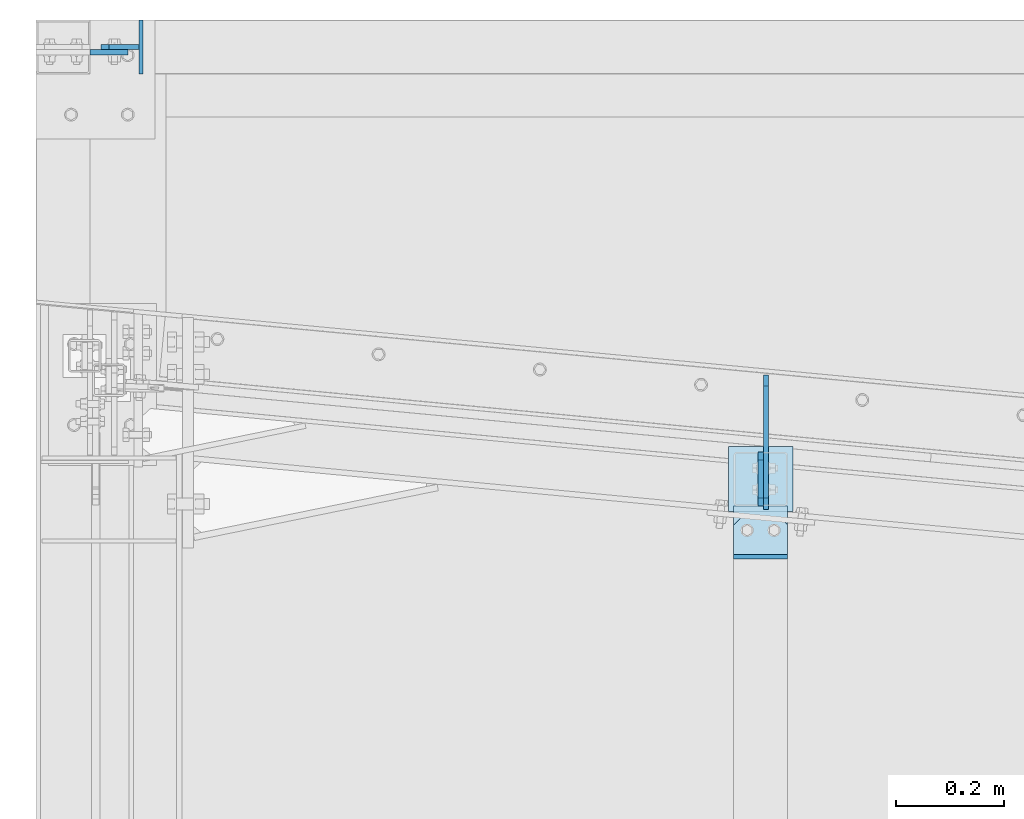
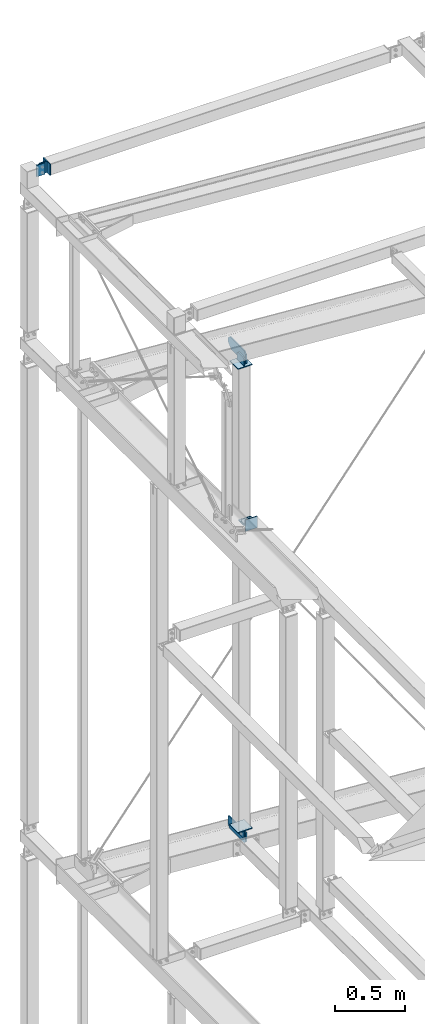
# One storey, part 148 of 271: 12 plates, 6 elements without a shape of their own.
"""IFC2X3 building model written with IfcOpenShell, lengths in millimetres."""

from ifc_helpers import new_model, si_unit, frame, origin_with_axes, place, context, subcontext, project, spatial, polyline, outline, extrude, material, type_object, element, aggregate, save


model = new_model("IFC2X3")

# Units and contexts
model_context = context("Model", 3, precision=1e-05, world=origin_with_axes())
body_context = subcontext(model_context, "Body", "Model", "MODEL_VIEW")
ifc_project = project(units=[si_unit("LENGTHUNIT", "METRE", prefix="MILLI"), si_unit("AREAUNIT", "SQUARE_METRE"), si_unit("VOLUMEUNIT", "CUBIC_METRE"), si_unit("MASSUNIT", "GRAM", prefix="KILO"), si_unit("TIMEUNIT", "SECOND"), si_unit("PLANEANGLEUNIT", "RADIAN"), si_unit("SOLIDANGLEUNIT", "STERADIAN"), si_unit("THERMODYNAMICTEMPERATUREUNIT", "DEGREE_CELSIUS"), si_unit("LUMINOUSINTENSITYUNIT", "LUMEN")], contexts=[model_context])

# Site, building, storey
site_placement = place(None, origin_with_axes())
site = spatial("IfcSite", under=ifc_project, at=site_placement, Name="Undefined", CompositionType="ELEMENT")
building_placement = place(site_placement, origin_with_axes())
building = spatial("IfcBuilding", under=site, at=building_placement, Name="Undefined", CompositionType="ELEMENT")
storey_placement = place(building_placement, origin_with_axes())
storey = spatial("IfcBuildingStorey", under=building, at=storey_placement, Name="Undefined", CompositionType="ELEMENT", Elevation=0.0)

# Assembly, plate
assembly_1_placement = place(storey_placement, origin_with_axes())
assembly_1 = element("IfcElementAssembly", 1, at=assembly_1_placement, inside=storey, AssemblyPlace="NOTDEFINED", PredefinedType="RIGID_FRAME")
ifc_material = material(Name="STEEL/S355JR")
plate_type_1 = type_object("IfcPlateType", Name="BL8*100", PredefinedType="NOTDEFINED")
plate_1_placement = place(assembly_1_placement, frame((1380.37568709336, 3965.0521198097, 17144.3499999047), z_axis=(0.0, 1.0, 0.0), x_axis=(-1.0, 0.0, 1.38777878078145e-17)))
plate_1 = element("IfcPlate", 2, at=plate_1_placement, type_object=plate_type_1, material=ifc_material, Name="BLACHA", ObjectType="BL8*100", context=body_context, shape_type="SweptSolid", body=[
    extrude(outline(polyline([(0.0, 0.0), (100.0, 0.0), (100.0, 100.0), (1.59161572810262e-12, 100.0), (0.0, 0.0)])), frame((0.0, 0.0, -4.0), z_axis=(0.0, 0.0, 1.0), x_axis=(1.0, 0.0, 0.0)), (0.0, 0.0, 1.0), 8.0),
])

assembly_2_placement = place(storey_placement, origin_with_axes())
assembly_2 = element("IfcElementAssembly", 3, at=assembly_2_placement, inside=storey, AssemblyPlace="NOTDEFINED", PredefinedType="RIGID_FRAME")
plate_2_placement = place(assembly_2_placement, frame((182.375687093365, 4859.32498425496, 20104.3499999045), z_axis=(-1.0, 0.0, 1.38777878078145e-17), x_axis=(0.0, 0.0, 1.0)))
plate_2 = element("IfcPlate", 4, at=plate_2_placement, type_object=plate_type_1, material=ifc_material, Name="BLACHA", ObjectType="BL8*100", context=body_context, shape_type="SweptSolid", body=[
    extrude(outline(polyline([(0.0, 0.0), (100.0, 0.0), (100.0, 100.0), (1.59161572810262e-12, 100.0), (0.0, 0.0)])), frame((0.0, 0.0, -4.0), z_axis=(0.0, 0.0, 1.0), x_axis=(1.0, 0.0, 0.0)), (0.0, 0.0, 1.0), 8.0),
])

# Plate
plate_type_2 = type_object("IfcPlateType", Name="BL10*70", PredefinedType="NOTDEFINED")
plate_3_placement = place(assembly_1_placement, frame((1380.37568709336, 4024.0521198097, 17194.3499999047), z_axis=(0.0, 0.0, 1.0), x_axis=(-0.707106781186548, 0.707106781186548, 0.0)))
plate_3 = element("IfcPlate", 5, at=plate_3_placement, type_object=plate_type_2, material=ifc_material, Name="BLACHA", ObjectType="BL10*70", context=body_context, shape_type="SweptSolid", body=[
    extrude(outline(polyline([(0.0, 0.0), (21.2132034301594, 1.09139364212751e-11), (70.7106781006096, 49.4974746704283), (70.7106781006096, 70.7106781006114), (31.8198051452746, 109.601554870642), (-38.890872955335, 38.8908729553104), (0.0, 0.0)])), frame((0.0, 0.0, -5.0), z_axis=(0.0, 0.0, 1.0), x_axis=(1.0, 0.0, 0.0)), (0.0, 0.0, 1.0), 10.0),
])

aggregate(assembly_1, [plate_1, plate_3])

# Assembly, plates
assembly_3_placement = place(storey_placement, origin_with_axes())
assembly_3 = element("IfcElementAssembly", 6, at=assembly_3_placement, inside=storey, AssemblyPlace="NOTDEFINED", PredefinedType="RIGID_FRAME")
plate_4_placement = place(assembly_3_placement, frame((1380.37568709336, 4059.0521198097, 17184.3499999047), z_axis=(0.0, 0.0, 1.0), x_axis=(-1.0, 0.0, 1.38777878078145e-17)))
plate_4 = element("IfcPlate", 7, at=plate_4_placement, type_object=plate_type_2, material=ifc_material, Name="BLACHA", ObjectType="BL10*70", context=body_context, shape_type="SweptSolid", body=[
    extrude(outline(polyline([(0.0, 0.0), (100.0, 0.0), (100.0, 70.0), (0.0, 70.0), (0.0, 0.0)])), frame((0.0, 0.0, -5.0), z_axis=(0.0, 0.0, 1.0), x_axis=(1.0, 0.0, 0.0)), (0.0, 0.0, 1.0), 10.0),
])
plate_5_placement = place(assembly_3_placement, frame((1330.37568709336, 4059.0521198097, 18575.749999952), z_axis=(-1.0, 0.0, 1.38777878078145e-17), x_axis=(0.0, 0.707106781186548, 0.707106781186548)))
plate_5 = element("IfcPlate", 8, at=plate_5_placement, type_object=plate_type_2, material=ifc_material, Name="BLACHA", ObjectType="BL10*70", context=body_context, shape_type="SweptSolid", body=[
    extrude(outline(polyline([(0.0, 0.0), (21.2132034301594, 1.09139364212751e-11), (70.7106781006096, 49.4974746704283), (70.7106781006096, 70.7106781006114), (31.8198051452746, 109.601554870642), (-38.890872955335, 38.8908729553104), (0.0, 0.0)])), frame((0.0, 0.0, -5.0), z_axis=(0.0, 0.0, 1.0), x_axis=(1.0, 0.0, 0.0)), (0.0, 0.0, 1.0), 10.0),
])
plate_6_placement = place(assembly_3_placement, frame((1330.37568709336, 4159.0521198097, 14392.949999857), z_axis=(-1.0, 0.0, 1.38777878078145e-17), x_axis=(0.0, -0.707106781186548, -0.707106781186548)))
plate_6 = element("IfcPlate", 9, at=plate_6_placement, type_object=plate_type_2, material=ifc_material, Name="BLACHA", ObjectType="BL10*70", context=body_context, shape_type="SweptSolid", body=[
    extrude(outline(polyline([(0.0, 0.0), (21.2132034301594, 1.09139364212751e-11), (70.7106781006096, 49.4974746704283), (70.7106781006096, 70.7106781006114), (31.8198051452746, 109.601554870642), (-38.890872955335, 38.8908729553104), (0.0, 0.0)])), frame((0.0, 0.0, -5.0), z_axis=(0.0, 0.0, 1.0), x_axis=(1.0, 0.0, 0.0)), (0.0, 0.0, 1.0), 10.0),
])

# Plate
plate_7_placement = place(assembly_2_placement, frame((123.375687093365, 4909.32498425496, 20104.3499999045), z_axis=(0.0, 1.0, 0.0), x_axis=(-0.707106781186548, 0.0, 0.707106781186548)))
plate_7 = element("IfcPlate", 10, at=plate_7_placement, type_object=plate_type_2, material=ifc_material, Name="BLACHA", ObjectType="BL10*70", context=body_context, shape_type="SweptSolid", body=[
    extrude(outline(polyline([(0.0, 0.0), (21.2132034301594, 1.09139364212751e-11), (70.7106781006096, 49.4974746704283), (70.7106781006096, 70.7106781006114), (31.8198051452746, 109.601554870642), (-38.890872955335, 38.8908729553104), (0.0, 0.0)])), frame((0.0, 0.0, -5.0), z_axis=(0.0, 0.0, 1.0), x_axis=(1.0, 0.0, 0.0)), (0.0, 0.0, 1.0), 10.0),
])

aggregate(assembly_2, [plate_2, plate_7])

# Assembly, plate
assembly_4_placement = place(storey_placement, origin_with_axes())
assembly_4 = element("IfcElementAssembly", 11, at=assembly_4_placement, inside=storey, AssemblyPlace="NOTDEFINED", PredefinedType="RIGID_FRAME")
plate_8_placement = place(assembly_4_placement, frame((88.3756870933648, 4899.32498425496, 20104.3499999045), z_axis=(0.0, 1.0, 0.0), x_axis=(0.0, 0.0, 1.0)))
plate_8 = element("IfcPlate", 12, at=plate_8_placement, type_object=plate_type_2, material=ifc_material, Name="BLACHA", ObjectType="BL10*70", context=body_context, shape_type="SweptSolid", body=[
    extrude(outline(polyline([(0.0, 0.0), (100.0, 0.0), (100.0, 70.0), (0.0, 70.0), (0.0, 0.0)])), frame((0.0, 0.0, -5.0), z_axis=(0.0, 0.0, 1.0), x_axis=(1.0, 0.0, 0.0)), (0.0, 0.0, 1.0), 10.0),
])
aggregate(assembly_4, [plate_8])

assembly_5_placement = place(storey_placement, origin_with_axes())
assembly_5 = element("IfcElementAssembly", 13, at=assembly_5_placement, inside=storey, AssemblyPlace="NOTDEFINED", PredefinedType="RIGID_FRAME")
plate_type_3 = type_object("IfcPlateType", Name="BL10*100", PredefinedType="NOTDEFINED")
plate_9_placement = place(assembly_5_placement, frame((1340.37568709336, 4301.95966050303, 18640.749999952), z_axis=(-1.0, 0.0, 1.38777878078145e-17), x_axis=(0.0, 0.0, -1.0)))
plate_9 = element("IfcPlate", 14, at=plate_9_placement, type_object=plate_type_3, material=ifc_material, Name="BLACHA", ObjectType="BL10*100", context=body_context, shape_type="SweptSolid", body=[
    extrude(outline(polyline([(0.0, 20.7716979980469), (20.7716979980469, 8.17124146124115e-14), (60.0, 4.44089209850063e-13), (100.0, 40.0000000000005), (100.0, 249.16485595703), (20.7716979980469, 249.16485595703), (0.0, 228.393157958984), (0.0, 20.7716979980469)])), frame((0.0, 0.0, -5.0), z_axis=(0.0, 0.0, 1.0), x_axis=(1.0, 0.0, 0.0)), (0.0, 0.0, 1.0), 10.0),
])
aggregate(assembly_5, [plate_9])

assembly_6_placement = place(storey_placement, origin_with_axes())
assembly_6 = element("IfcElementAssembly", 15, at=assembly_6_placement, inside=storey, AssemblyPlace="NOTDEFINED", PredefinedType="RIGID_FRAME")
plate_10_placement = place(assembly_6_placement, frame((1340.37568709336, 4052.79480118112, 14327.949999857), z_axis=(-1.0, 0.0, 1.38777878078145e-17), x_axis=(0.0, 0.0, 1.0)))
plate_10 = element("IfcPlate", 16, at=plate_10_placement, type_object=plate_type_3, material=ifc_material, Name="BLACHA", ObjectType="BL10*100", context=body_context, shape_type="SweptSolid", body=[
    extrude(outline(polyline([(0.0, 20.7716979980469), (20.7716979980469, 8.17124146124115e-14), (100.0, 0.0), (100.0, 249.16485595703), (20.7716979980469, 249.16485595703), (0.0, 228.393157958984), (0.0, 20.7716979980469)])), frame((0.0, 0.0, -5.0), z_axis=(0.0, 0.0, 1.0), x_axis=(1.0, 0.0, 0.0)), (0.0, 0.0, 1.0), 10.0),
])
aggregate(assembly_6, [plate_10])

# Plate
plate_type_4 = type_object("IfcPlateType", Name="BL8*120", PredefinedType="NOTDEFINED")
plate_11_placement = place(assembly_3_placement, frame((1390.37568709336, 4049.0521198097, 18516.749999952), z_axis=(0.0, 0.0, 1.0), x_axis=(0.0, 1.0, 0.0)))
plate_11 = element("IfcPlate", 17, at=plate_11_placement, type_object=plate_type_4, material=ifc_material, Name="BLACHA", ObjectType="BL8*120", context=body_context, shape_type="SweptSolid", body=[
    extrude(outline(polyline([(0.0, 0.0), (120.0, 0.0), (120.0, 120.0), (0.0, 120.0), (0.0, 0.0)])), frame((0.0, 0.0, -4.0), z_axis=(0.0, 0.0, 1.0), x_axis=(1.0, 0.0, 0.0)), (0.0, 0.0, 1.0), 8.0),
])

plate_12_placement = place(assembly_3_placement, frame((1390.37568709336, 4169.0521198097, 14451.949999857), z_axis=(0.0, 0.0, -1.0), x_axis=(0.0, -1.0, 0.0)))
plate_12 = element("IfcPlate", 18, at=plate_12_placement, type_object=plate_type_4, material=ifc_material, Name="BLACHA", ObjectType="BL8*120", context=body_context, shape_type="SweptSolid", body=[
    extrude(outline(polyline([(0.0, 0.0), (120.0, 0.0), (120.0, 120.0), (0.0, 120.0), (0.0, 0.0)])), frame((0.0, 0.0, -4.0), z_axis=(0.0, 0.0, 1.0), x_axis=(1.0, 0.0, 0.0)), (0.0, 0.0, 1.0), 8.0),
])

aggregate(assembly_3, [plate_4, plate_11, plate_5, plate_12, plate_6])

save(model, "model.ifc")
